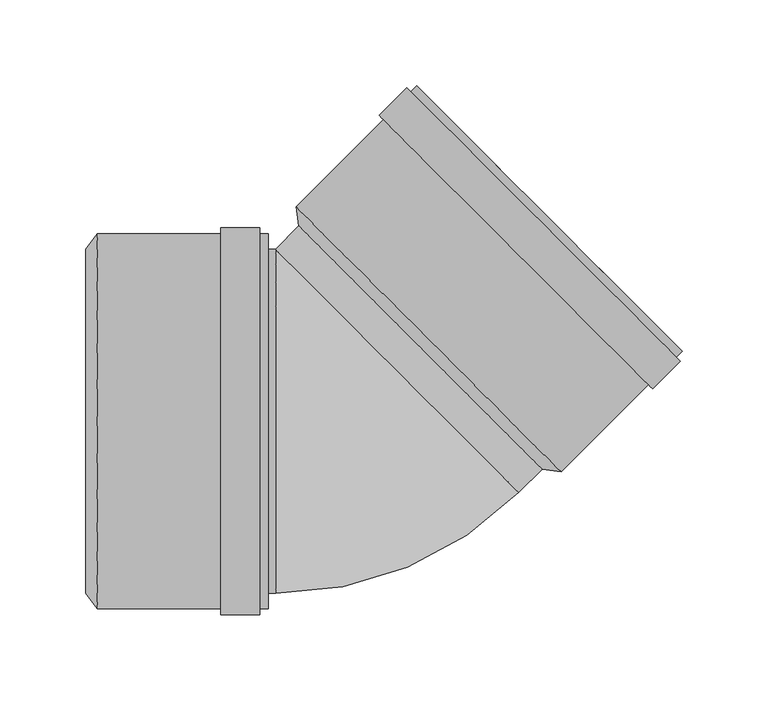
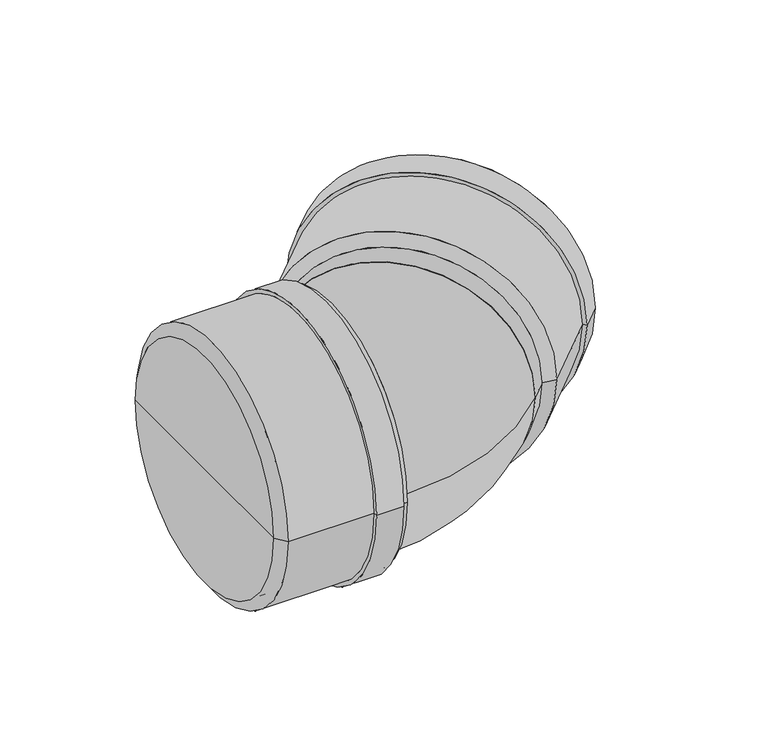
"""IFC4 building model written with IfcOpenShell, lengths in millimetres: pipe fitting geometry, pf_KGB : pf_KGB."""

import ifcopenshell
import ifcopenshell.guid

model = None  # the IFC model being written
_history = None  # IfcOwnerHistory: only IFC2X3 demands one
_inside = {}  # id of a spatial element -> (the spatial element, [elements in it])
_under = {}  # id of a project, library or spatial element -> (it, [spatial elements below it])
_declared = {}  # id of a project -> (the project, [libraries it declares])
_typed = {}  # id of a type object -> (the type object, [elements of that type])
_made_of = {}  # id of a material, layer set ... -> (it, [elements and type objects made of it])


def new_model(schema):
    """Start an empty IFC model of exactly this schema.

    Asked for "IFC4X3", IfcOpenShell would pick the latest addendum, in which some entities
    have other attributes; the version numbers below select the first issue.
    IFC2X3 requires an IfcOwnerHistory on every rooted entity: one is made here for all.
    """
    global model, _history
    if schema == "IFC4X3":
        model = ifcopenshell.file(schema_version=(4, 3, 0, 0))
    else:
        model = ifcopenshell.file(schema=schema)
    _inside.clear()
    _under.clear()
    _declared.clear()
    _typed.clear()
    _made_of.clear()
    _history = None
    if model.schema == "IFC2X3":
        org = make("IfcOrganization", Name="unknown")
        user = make(
            "IfcPersonAndOrganization",
            ThePerson=make("IfcPerson", FamilyName="unknown"),
            TheOrganization=org,
        )
        app = make(
            "IfcApplication",
            ApplicationDeveloper=org,
            Version="unknown",
            ApplicationFullName="unknown",
            ApplicationIdentifier="unknown",
        )
        _history = make(
            "IfcOwnerHistory",
            OwningUser=user,
            OwningApplication=app,
            ChangeAction="ADDED",
            CreationDate=0,
        )
    return model


def make(cls, **values):
    """One entity of the class cls with the attributes given. An attribute that is None is left unset."""
    return model.create_entity(
        cls, **{name: value for name, value in values.items() if value is not None}
    )


def rooted(cls, **values):
    """An entity with a GlobalId (a new one), such as an element, a storey or a relation."""
    return make(cls, GlobalId=ifcopenshell.guid.new(), OwnerHistory=_history, **values)


def si_unit(unit_type, name, prefix=None):
    """IfcSIUnit, for example si_unit("LENGTHUNIT", "METRE", prefix="MILLI")."""
    return make("IfcSIUnit", UnitType=unit_type, Prefix=prefix, Name=name)


def assignment(units):
    """IfcUnitAssignment: the units of a project."""
    return None if units is None else make("IfcUnitAssignment", Units=units)


def point(xyz):
    """IfcCartesianPoint."""
    return None if xyz is None else make("IfcCartesianPoint", Coordinates=xyz)


def direction(xyz):
    """IfcDirection."""
    return None if xyz is None else make("IfcDirection", DirectionRatios=xyz)


def frame(location, z_axis=None, x_axis=None):
    """IfcAxis2Placement3D, a coordinate frame: its origin and axes. An axis left out is left unset."""
    return make(
        "IfcAxis2Placement3D",
        Location=point(location),
        Axis=direction(z_axis),
        RefDirection=direction(x_axis),
    )


def frame_2d(location, x_axis=None):
    """IfcAxis2Placement2D, a coordinate frame in the plane: its origin and x axis."""
    return make(
        "IfcAxis2Placement2D", Location=point(location), RefDirection=direction(x_axis)
    )


def origin():
    """The frame at (0, 0, 0) with its axes left unset."""
    return frame((0.0, 0.0, 0.0))


def origin_2d():
    """The frame at (0, 0) in the plane with its x axis left unset."""
    return frame_2d((0.0, 0.0))


def place(relative_to, where):
    """IfcLocalPlacement: puts the frame where relative to a parent placement (None: the world)."""
    return make(
        "IfcLocalPlacement", PlacementRelTo=relative_to, RelativePlacement=where
    )


def context(
    kind, dimensions, precision=None, world=None, true_north=None, identifier=None
):
    """IfcGeometricRepresentationContext, for example the 3D "Model" context."""
    return make(
        "IfcGeometricRepresentationContext",
        ContextIdentifier=identifier,
        ContextType=kind,
        CoordinateSpaceDimension=dimensions,
        Precision=precision,
        WorldCoordinateSystem=world,
        TrueNorth=true_north,
    )


def project(units=None, contexts=None):
    """IfcProject with its units and contexts."""
    return rooted(
        "IfcProject",
        Name="project",
        RepresentationContexts=contexts,
        UnitsInContext=assignment(units),
    )


def spatial(cls, under=None, at=None, **own):
    """A site, building, storey or space (cls), placed at a placement, below another one or the project."""
    s = rooted(cls, ObjectPlacement=at, **own)
    if under is not None:
        _under.setdefault(under.id(), (under, []))[1].append(s)
    return s


def polyline(points):
    """IfcPolyline through the points."""
    return make("IfcPolyline", Points=[point(p) for p in points])


def circle_curve(where, radius):
    """IfcCircle in the frame where."""
    return make("IfcCircle", Position=where, Radius=radius)


def ellipse_curve(where, semi_axis1, semi_axis2):
    """IfcEllipse in the frame where."""
    return make(
        "IfcEllipse", Position=where, SemiAxis1=semi_axis1, SemiAxis2=semi_axis2
    )


def trimmed(basis, trim1, trim2, sense, master):
    """IfcTrimmedCurve: the piece of a basis curve between two trims."""
    return make(
        "IfcTrimmedCurve",
        BasisCurve=basis,
        Trim1=trim1,
        Trim2=trim2,
        SenseAgreement=sense,
        MasterRepresentation=master,
    )


def segment(curve, same_sense, transition):
    """IfcCompositeCurveSegment."""
    return make(
        "IfcCompositeCurveSegment",
        Transition=transition,
        SameSense=same_sense,
        ParentCurve=curve,
    )


def composite_curve(segments, self_intersect=None):
    """IfcCompositeCurve: segments joined end to end."""
    return make("IfcCompositeCurve", Segments=segments, SelfIntersect=self_intersect)


def outline(outer, holes=None, kind="AREA"):
    """IfcArbitraryClosedProfileDef: a profile drawn as a closed curve; with holes, ...WithVoids."""
    if holes is None:
        return make("IfcArbitraryClosedProfileDef", ProfileType=kind, OuterCurve=outer)
    return make(
        "IfcArbitraryProfileDefWithVoids",
        ProfileType=kind,
        OuterCurve=outer,
        InnerCurves=holes,
    )


def extrude(swept, where, along, depth):
    """IfcExtrudedAreaSolid: the profile swept, set in the frame where, extruded along a direction by depth."""
    return make(
        "IfcExtrudedAreaSolid",
        SweptArea=swept,
        Position=where,
        ExtrudedDirection=direction(along),
        Depth=depth,
    )


def shape(context_of_items, identifier, shape_type, items):
    """IfcShapeRepresentation: the items that make up one representation, for example the "Body"."""
    return make(
        "IfcShapeRepresentation",
        ContextOfItems=context_of_items,
        RepresentationIdentifier=identifier,
        RepresentationType=shape_type,
        Items=items,
    )


def source(mapping_origin, context_of_items, identifier, shape_type, items):
    """IfcRepresentationMap: a shape defined once, which mapped items show again and again."""
    return make(
        "IfcRepresentationMap",
        MappingOrigin=mapping_origin,
        MappedRepresentation=shape(context_of_items, identifier, shape_type, items),
    )


def transform(
    local_origin,
    x_axis=None,
    y_axis=None,
    z_axis=None,
    scale=None,
    scale2=None,
    scale3=None,
    uniform=True,
):
    """IfcCartesianTransformationOperator3D, or its non-uniform kind. x_axis, y_axis, z_axis: its Axis1, 2, 3."""
    if uniform:
        return make(
            "IfcCartesianTransformationOperator3D",
            Axis1=direction(x_axis),
            Axis2=direction(y_axis),
            LocalOrigin=point(local_origin),
            Scale=scale,
            Axis3=direction(z_axis),
        )
    return make(
        "IfcCartesianTransformationOperator3DnonUniform",
        Axis1=direction(x_axis),
        Axis2=direction(y_axis),
        LocalOrigin=point(local_origin),
        Scale=scale,
        Axis3=direction(z_axis),
        Scale2=scale2,
        Scale3=scale3,
    )


def mapped(mapping_source, mapping_target):
    """IfcMappedItem: shows the shape of a source again, moved by a transform."""
    return make(
        "IfcMappedItem", MappingSource=mapping_source, MappingTarget=mapping_target
    )


def made_of(thing, what):
    """Note that an element or type object is made of a material, layer set ...; save() writes the relation."""
    if what is not None:
        _made_of.setdefault(what.id(), (what, []))[1].append(thing)
    return thing


def element(
    cls,
    number,
    at=None,
    inside=None,
    cuts=None,
    type_object=None,
    material=None,
    context=None,
    identifier="Body",
    shape_type=None,
    held_by="IfcProductDefinitionShape",
    body=None,
    shapes=None,
    **own,
):
    """One element of the class cls, such as IfcWall. Its Tag is "e" and its number.

    at: its placement. inside: the storey or other place that contains it. cuts: it is an
    opening in that element (IfcRelVoidsElement). A single representation is given by context,
    identifier, shape_type and body (its items); several are given by shapes. held_by: the class
    of the entity that holds the representations. save() writes the other relations.
    """
    e = rooted(cls, Tag="e%d" % number, ObjectPlacement=at, **own)
    if body is not None:
        shapes = [shape(context, identifier, shape_type, body)]
    if shapes is not None:
        e.Representation = make(held_by, Representations=shapes)
    if inside is not None:
        _inside.setdefault(inside.id(), (inside, []))[1].append(e)
    if cuts is not None:
        rooted(
            "IfcRelVoidsElement", RelatingBuildingElement=cuts, RelatedOpeningElement=e
        )
    if type_object is not None:
        _typed.setdefault(type_object.id(), (type_object, []))[1].append(e)
    return made_of(e, material)


def aggregate(whole, parts):
    """IfcRelAggregates: a whole, such as a stair, and the parts it consists of."""
    return rooted("IfcRelAggregates", RelatingObject=whole, RelatedObjects=parts)


def save(model, path):
    """Write the relations noted so far, then the file.

    IfcRelAggregates (storeys below a building ...), IfcRelContainedInSpatialStructure (elements
    in a storey), IfcRelDefinesByType, IfcRelAssociatesMaterial and IfcRelDeclares: one each for
    every whole, place, type object, material and project.
    """
    for whole, parts in _under.values():
        aggregate(whole, parts)
    for where, things in _inside.values():
        rooted(
            "IfcRelContainedInSpatialStructure",
            RelatedElements=things,
            RelatingStructure=where,
        )
    for kind, things in _typed.values():
        rooted("IfcRelDefinesByType", RelatedObjects=things, RelatingType=kind)
    for what, things in _made_of.values():
        rooted("IfcRelAssociatesMaterial", RelatedObjects=things, RelatingMaterial=what)
    for by, libraries in _declared.values():
        rooted("IfcRelDeclares", RelatingContext=by, RelatedDefinitions=libraries)
    model.write(path)


def plane_surface(at):
    """IfcPlane: the flat surface through the origin of the frame at, square to its z axis."""
    return make("IfcPlane", Position=at)


def cylinder_surface(at, radius):
    """IfcCylindricalSurface: all points at the distance radius from the z axis of the frame at."""
    return make("IfcCylindricalSurface", Position=at, Radius=radius)


def revolved_surface(curve, axis_point, axis_direction):
    """IfcSurfaceOfRevolution: the curve turned about the line through axis_point along axis_direction."""
    return make(
        "IfcSurfaceOfRevolution",
        SweptCurve=make("IfcArbitraryOpenProfileDef", ProfileType="CURVE", Curve=curve),
        AxisPosition=make("IfcAxis1Placement", Location=point(axis_point), Axis=direction(axis_direction)),
    )


def advanced_brep(points, edges, surfaces, faces):
    """IfcAdvancedBrep: a solid bounded by faces that lie on surfaces and meet in shared edges.

    An edge is (start, end): straight between two places in points (the first is 0);
    or (start, end, curve); or (start, end, curve, False) where it runs against its curve.
    A face is (place in surfaces, loops), or (place, loops, False) where it looks against
    its surface's normal. A loop lists edges by number (the first is 1), with a minus sign
    where the edge is run from its end to its start. The first loop is the outer one.
    """
    corners = [point(p) for p in points]
    vertices = [make("IfcVertexPoint", VertexGeometry=c) for c in corners]
    made = []
    for start, end, *more in edges:
        made.append(
            make(
                "IfcEdgeCurve",
                EdgeStart=vertices[start],
                EdgeEnd=vertices[end],
                EdgeGeometry=more[0] if more else make("IfcPolyline", Points=[corners[start], corners[end]]),
                SameSense=more[1] if len(more) > 1 else True,
            )
        )
    hull = []
    for where, loops, *sense in faces:
        bounds = []
        for j, loop in enumerate(loops):
            ring = [make("IfcOrientedEdge", EdgeElement=made[abs(k) - 1], Orientation=k > 0) for k in loop]
            bounds.append(
                make(
                    "IfcFaceOuterBound" if j == 0 else "IfcFaceBound",
                    Bound=make("IfcEdgeLoop", EdgeList=ring),
                    Orientation=True,
                )
            )
        hull.append(make("IfcAdvancedFace", Bounds=bounds, FaceSurface=surfaces[where], SameSense=sense[0] if sense else True))
    return make("IfcAdvancedBrep", Outer=make("IfcClosedShell", CfsFaces=hull))


def pipe_fitting_96c7e01a(model_context):
    return source(origin(), model_context, "Body", "SolidModel", [
        advanced_brep(
        [(113.6320597, -27.7892965, 0.0), (-27.7892965, 113.6320597, 0.0), (-29.4863528, 124.8043469, 0.0), (124.8043469, -29.4863528, 0.0), (42.9213816, 42.9213816, 0.0), (195.0200503, 40.7293506, 0.0), (40.7293506, 195.0200503, 0.0), (47.1640223, 188.5853785, 0.0), (188.5853785, 47.1640223, 0.0), (37.335238, 191.6259377, 0.0), (191.6259377, 37.335238, 0.0), (34.931075, 194.0301008, 0.0), (194.0301008, 34.931075, 0.0), (18.8090404, 177.9080661, 0.0), (177.9080661, 18.8090404, 0.0), (21.2132034, 175.5039031, 0.0), (175.5039031, 21.2132034, 0.0), (118.3696752, -23.0516811, 0.0), (-23.0516811, 118.3696752, 0.0), (47.6589971, 47.6589971, 0.0)],
        [
            (0, 1, circle_curve(frame((42.9213816, 42.9213816, 0.0), z_axis=(0.7071067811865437, 0.7071067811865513, 0.0), x_axis=(-0.7071067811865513, 0.7071067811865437, 0.0)), 100.0)),
            (1, 2),
            (2, 3, circle_curve(frame((47.6589971, 47.6589971, 0.0), z_axis=(-0.7071067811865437, -0.7071067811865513, 0.0), x_axis=(-0.7071067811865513, 0.7071067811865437, 0.0)), 109.1)),
            (3, 0),
            (1, 0, circle_curve(frame((42.9213816, 42.9213816, 0.0), z_axis=(0.7071067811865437, 0.7071067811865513, 0.0), x_axis=(-0.7071067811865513, 0.7071067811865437, 0.0)), 100.0)),
            (3, 2, circle_curve(frame((47.6589971, 47.6589971, 0.0), z_axis=(-0.7071067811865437, -0.7071067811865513, 0.0), x_axis=(-0.7071067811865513, 0.7071067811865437, 0.0)), 109.1)),
            (4, 1),
            (0, 4),
            (5, 6, circle_curve(frame((117.8747004, 117.8747004, 0.0), z_axis=(0.7071067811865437, 0.7071067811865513, 0.0), x_axis=(-0.7071067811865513, 0.7071067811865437, 0.0)), 109.1)),
            (6, 7),
            (7, 8, circle_curve(frame((117.8747004, 117.8747004, 0.0), z_axis=(-0.7071067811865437, -0.7071067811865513, 0.0), x_axis=(-0.7071067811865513, 0.7071067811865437, 0.0)), 100.0)),
            (8, 5),
            (9, 10, circle_curve(frame((114.4805879, 114.4805879, 0.0), z_axis=(0.7071067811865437, 0.7071067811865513, 0.0), x_axis=(-0.7071067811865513, 0.7071067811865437, 0.0)), 109.1)),
            (10, 5),
            (5, 6, circle_curve(frame((117.8747004, 117.8747004, 0.0), z_axis=(-0.7071067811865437, -0.7071067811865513, 0.0), x_axis=(-0.7071067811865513, 0.7071067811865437, 0.0)), 109.1)),
            (6, 9),
            (11, 12, circle_curve(frame((114.4805879, 114.4805879, 0.0), z_axis=(0.7071067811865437, 0.7071067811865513, 0.0), x_axis=(-0.7071067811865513, 0.7071067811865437, 0.0)), 112.5)),
            (12, 10),
            (9, 11),
            (13, 14, circle_curve(frame((98.3585533, 98.3585533, 0.0), z_axis=(0.7071067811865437, 0.7071067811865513, 0.0), x_axis=(-0.7071067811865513, 0.7071067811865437, 0.0)), 112.5)),
            (14, 12),
            (11, 13),
            (15, 16, circle_curve(frame((98.3585533, 98.3585533, 0.0), z_axis=(0.7071067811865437, 0.7071067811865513, 0.0), x_axis=(-0.7071067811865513, 0.7071067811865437, 0.0)), 109.1)),
            (16, 14),
            (13, 15),
            (8, 7, circle_curve(frame((117.8747004, 117.8747004, 0.0), z_axis=(-0.7071067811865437, -0.7071067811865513, 0.0), x_axis=(-0.7071067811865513, 0.7071067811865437, 0.0)), 100.0)),
            (10, 9, circle_curve(frame((114.4805879, 114.4805879, 0.0), z_axis=(0.7071067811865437, 0.7071067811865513, 0.0), x_axis=(-0.7071067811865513, 0.7071067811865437, 0.0)), 109.1)),
            (12, 11, circle_curve(frame((114.4805879, 114.4805879, 0.0), z_axis=(0.7071067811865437, 0.7071067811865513, 0.0), x_axis=(-0.7071067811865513, 0.7071067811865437, 0.0)), 112.5)),
            (14, 13, circle_curve(frame((98.3585533, 98.3585533, 0.0), z_axis=(0.7071067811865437, 0.7071067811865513, 0.0), x_axis=(-0.7071067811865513, 0.7071067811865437, 0.0)), 112.5)),
            (16, 15, circle_curve(frame((98.3585533, 98.3585533, 0.0), z_axis=(0.7071067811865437, 0.7071067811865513, 0.0), x_axis=(-0.7071067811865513, 0.7071067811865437, 0.0)), 109.1)),
            (2, 15),
            (16, 3),
            (17, 18, circle_curve(frame((47.6589971, 47.6589971, 0.0), z_axis=(0.7071067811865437, 0.7071067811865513, 0.0), x_axis=(-0.7071067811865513, 0.7071067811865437, 0.0)), 100.0)),
            (18, 19),
            (19, 17),
            (18, 17, circle_curve(frame((47.6589971, 47.6589971, 0.0), z_axis=(0.7071067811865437, 0.7071067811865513, 0.0), x_axis=(-0.7071067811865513, 0.7071067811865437, 0.0)), 100.0)),
            (7, 18),
            (17, 8),
        ],
        [
            revolved_surface(polyline([(-29.4863528, 124.8043469, 0.0), (-27.7892965, 113.6320597, 0.0)]), (42.9213816, 42.9213816, 0.0), (-0.7071067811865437, -0.7071067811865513, 0.0)),
            plane_surface(frame((42.9213816, 42.9213816, 0.0), z_axis=(-0.7071067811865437, -0.7071067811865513, 0.0), x_axis=(-0.7071067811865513, 0.7071067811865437, 0.0))),
            plane_surface(frame((117.8747004, 117.8747004, 0.0), z_axis=(0.7071067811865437, 0.7071067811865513, 0.0), x_axis=(-0.7071067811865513, 0.7071067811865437, 0.0))),
            cylinder_surface(frame((42.9213816, 42.9213816, 0.0), z_axis=(-0.7071067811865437, -0.7071067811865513, 0.0), x_axis=(-0.7071067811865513, 0.7071067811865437, 0.0)), 109.1),
            plane_surface(frame((114.4805879, 114.4805879, 0.0), z_axis=(0.7071067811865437, 0.7071067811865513, 0.0), x_axis=(-0.7071067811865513, 0.7071067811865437, 0.0))),
            cylinder_surface(frame((42.9213816, 42.9213816, 0.0), z_axis=(-0.7071067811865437, -0.7071067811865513, 0.0), x_axis=(-0.7071067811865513, 0.7071067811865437, 0.0)), 112.5),
            plane_surface(frame((98.3585533, 98.3585533, 0.0), z_axis=(-0.7071067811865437, -0.7071067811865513, 0.0), x_axis=(-0.7071067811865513, 0.7071067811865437, 0.0))),
            plane_surface(frame((47.6589971, 47.6589971, 0.0), z_axis=(0.7071067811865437, 0.7071067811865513, 0.0), x_axis=(-0.7071067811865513, 0.7071067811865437, 0.0))),
            revolved_surface(polyline([(-23.05168106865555, 118.36967516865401, 0.0), (47.164022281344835, 188.58537851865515, 0.0)]), (42.9213816, 42.9213816, 0.0), (-0.7071067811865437, -0.7071067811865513, 0.0)),
        ],
        [
            (0, [[1, 2, 3, 4]]),
            (0, [[5, -4, 6, -2]]),
            (1, [[7, -1, 8]]),
            (1, [[-8, -5, -7]]),
            (2, [[9, 10, 11, 12]]),
            (3, [[13, 14, 15, 16]]),
            (4, [[17, 18, -13, 19]]),
            (5, [[20, 21, -17, 22]]),
            (6, [[23, 24, -20, 25]]),
            (2, [[-15, -12, 26, -10]]),
            (3, [[27, -16, -9, -14]]),
            (4, [[28, -19, -27, -18]]),
            (5, [[29, -22, -28, -21]]),
            (6, [[30, -25, -29, -24]]),
            (3, [[-3, 31, -30, 32]]),
            (3, [[-6, -32, -23, -31]]),
            (7, [[33, 34, 35]]),
            (7, [[36, -35, -34]]),
            (8, [[-11, 37, -33, 38]]),
            (8, [[-26, -38, -36, -37]]),
        ],
    ),
        advanced_brep(
        [(-151.7, -100.0, 0.0), (-151.7, 100.0, 0.0), (-145.0, 109.1, 0.0), (-145.0, -109.1, 0.0), (-151.7, 0.0, 0.0), (-45.7, -109.1, 0.0), (-45.7, 109.1, 0.0), (-45.7, 100.0, 0.0), (-45.7, -100.0, 0.0), (-50.5, 109.1, 0.0), (-50.5, -109.1, 0.0), (-50.5, 112.5, 0.0), (-50.5, -112.5, 0.0), (-73.3, 112.5, 0.0), (-73.3, -112.5, 0.0), (-73.3, 109.1, 0.0), (-73.3, -109.1, 0.0), (-145.0, -100.0, 0.0), (-145.0, 100.0, 0.0), (-145.0, 0.0, 0.0)],
        [
            (0, 1, circle_curve(frame((-151.7, 0.0, 0.0), z_axis=(1.0, 0.0, 0.0), x_axis=(0.0, 1.0, 0.0)), 100.0)),
            (1, 2),
            (2, 3, circle_curve(frame((-145.0, 0.0, 0.0), z_axis=(-1.0, 0.0, 0.0), x_axis=(0.0, 1.0, 0.0)), 109.1)),
            (3, 0),
            (1, 0, circle_curve(frame((-151.7, 0.0, 0.0), z_axis=(1.0, 0.0, 0.0), x_axis=(0.0, 1.0, 0.0)), 100.0)),
            (3, 2, circle_curve(frame((-145.0, 0.0, 0.0), z_axis=(-1.0, 0.0, 0.0), x_axis=(0.0, 1.0, 0.0)), 109.1)),
            (4, 1),
            (0, 4),
            (5, 6, circle_curve(frame((-45.7, 0.0, 0.0), z_axis=(1.0, 0.0, 0.0), x_axis=(0.0, 1.0, 0.0)), 109.1)),
            (6, 7),
            (7, 8, circle_curve(frame((-45.7, 0.0, 0.0), z_axis=(-1.0, 0.0, 0.0), x_axis=(0.0, 1.0, 0.0)), 100.0)),
            (8, 5),
            (9, 10, circle_curve(frame((-50.5, 0.0, 0.0), z_axis=(1.0, 0.0, 0.0), x_axis=(0.0, 1.0, 0.0)), 109.1)),
            (10, 5),
            (5, 6, circle_curve(frame((-45.7, 0.0, 0.0), z_axis=(-1.0, 0.0, 0.0), x_axis=(0.0, 1.0, 0.0)), 109.1)),
            (6, 9),
            (11, 12, circle_curve(frame((-50.5, 0.0, 0.0), z_axis=(1.0, 0.0, 0.0), x_axis=(0.0, 1.0, 0.0)), 112.5)),
            (12, 10),
            (9, 11),
            (13, 14, circle_curve(frame((-73.3, 0.0, 0.0), z_axis=(1.0, 0.0, 0.0), x_axis=(0.0, 1.0, 0.0)), 112.5)),
            (14, 12),
            (11, 13),
            (15, 16, circle_curve(frame((-73.3, 0.0, 0.0), z_axis=(1.0, 0.0, 0.0), x_axis=(0.0, 1.0, 0.0)), 109.1)),
            (16, 14),
            (13, 15),
            (8, 7, circle_curve(frame((-45.7, 0.0, 0.0), z_axis=(-1.0, 0.0, 0.0), x_axis=(0.0, 1.0, 0.0)), 100.0)),
            (10, 9, circle_curve(frame((-50.5, 0.0, 0.0), z_axis=(1.0, 0.0, 0.0), x_axis=(0.0, 1.0, 0.0)), 109.1)),
            (12, 11, circle_curve(frame((-50.5, 0.0, 0.0), z_axis=(1.0, 0.0, 0.0), x_axis=(0.0, 1.0, 0.0)), 112.5)),
            (14, 13, circle_curve(frame((-73.3, 0.0, 0.0), z_axis=(1.0, 0.0, 0.0), x_axis=(0.0, 1.0, 0.0)), 112.5)),
            (16, 15, circle_curve(frame((-73.3, 0.0, 0.0), z_axis=(1.0, 0.0, 0.0), x_axis=(0.0, 1.0, 0.0)), 109.1)),
            (2, 15),
            (16, 3),
            (17, 18, circle_curve(frame((-145.0, 0.0, 0.0), z_axis=(1.0, 0.0, 0.0), x_axis=(0.0, 1.0, 0.0)), 100.0)),
            (18, 19),
            (19, 17),
            (18, 17, circle_curve(frame((-145.0, 0.0, 0.0), z_axis=(1.0, 0.0, 0.0), x_axis=(0.0, 1.0, 0.0)), 100.0)),
            (7, 18),
            (17, 8),
        ],
        [
            revolved_surface(polyline([(-145.0, 109.1, 0.0), (-151.7, 100.0, 0.0)]), (-151.7, 0.0, 0.0), (-1.0, 0.0, 0.0)),
            plane_surface(frame((-151.7, 0.0, 0.0), z_axis=(-1.0, 0.0, 0.0), x_axis=(0.0, 1.0, 0.0))),
            plane_surface(frame((-45.7, 0.0, 0.0), z_axis=(1.0, 0.0, 0.0), x_axis=(0.0, 1.0, 0.0))),
            cylinder_surface(frame((-151.7, 0.0, 0.0), z_axis=(-1.0, 0.0, 0.0), x_axis=(0.0, 1.0, 0.0)), 109.1),
            plane_surface(frame((-50.5, 0.0, 0.0), z_axis=(1.0, 0.0, 0.0), x_axis=(0.0, 1.0, 0.0))),
            cylinder_surface(frame((-151.7, 0.0, 0.0), z_axis=(-1.0, 0.0, 0.0), x_axis=(0.0, 1.0, 0.0)), 112.5),
            plane_surface(frame((-73.3, 0.0, 0.0), z_axis=(-1.0, 0.0, 0.0), x_axis=(0.0, 1.0, 0.0))),
            plane_surface(frame((-145.0, 0.0, 0.0), z_axis=(1.0, 0.0, 0.0), x_axis=(0.0, 1.0, 0.0))),
            revolved_surface(polyline([(-145.0, 100.0, 0.0), (-45.7, 100.0, 0.0)]), (-151.7, 0.0, 0.0), (-1.0, 0.0, 0.0)),
        ],
        [
            (0, [[1, 2, 3, 4]]),
            (0, [[5, -4, 6, -2]]),
            (1, [[7, -1, 8]]),
            (1, [[-8, -5, -7]]),
            (2, [[9, 10, 11, 12]]),
            (3, [[13, 14, 15, 16]]),
            (4, [[17, 18, -13, 19]]),
            (5, [[20, 21, -17, 22]]),
            (6, [[23, 24, -20, 25]]),
            (2, [[-15, -12, 26, -10]]),
            (3, [[27, -16, -9, -14]]),
            (4, [[28, -19, -27, -18]]),
            (5, [[29, -22, -28, -21]]),
            (6, [[30, -25, -29, -24]]),
            (3, [[-3, 31, -30, 32]]),
            (3, [[-6, -32, -23, -31]]),
            (7, [[33, 34, 35]]),
            (7, [[36, -35, -34]]),
            (8, [[-11, 37, -33, 38]]),
            (8, [[-26, -38, -36, -37]]),
        ],
    ),
        extrude(outline(composite_curve([segment(trimmed(circle_curve(origin_2d(), 100.0), [point((0.0, -100.0))], [point((0.0, 100.0))], False, "CARTESIAN"), True, "CONTINUOUS"), segment(trimmed(circle_curve(origin_2d(), 100.0), [point((0.0, 100.0))], [point((0.0, -100.0))], False, "CARTESIAN"), True, "CONTINUOUS")], self_intersect=False)), frame((29.2893219, 29.2893219, 0.0), z_axis=(0.7071067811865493, 0.7071067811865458, 0.0), x_axis=(0.0, 0.0, 1.0)), (0.0, 0.0, 1.0), 19.2786438),
        extrude(outline(composite_curve([segment(trimmed(circle_curve(origin_2d(), 100.0), [point((-100.0, 0.0))], [point((100.0, 0.0))], False, "CARTESIAN"), True, "CONTINUOUS"), segment(trimmed(circle_curve(origin_2d(), 100.0), [point((100.0, 0.0))], [point((-100.0, 0.0))], False, "CARTESIAN"), True, "CONTINUOUS")], self_intersect=False)), frame((-145.0, 0.0, 0.0), z_axis=(1.0, 0.0, 0.0), x_axis=(0.0, 1.0, 0.0)), (0.0, 0.0, 1.0), 103.5786438),
        advanced_brep(
        [(-41.4213562, -100.0, 0.0), (-41.4213562, 100.0, 0.0), (100.0, -41.4213562, 0.0)],
        [
            (0, 1, circle_curve(frame((-41.4213562, 0.0, 0.0), z_axis=(-1.0, 0.0, 0.0), x_axis=(0.0, 1.0, 0.0)), 100.0)),
            (1, 0, circle_curve(frame((-41.4213562, 0.0, 0.0), z_axis=(-1.0, 0.0, 0.0), x_axis=(0.0, 1.0, 0.0)), 100.0)),
            (2, 1, circle_curve(frame((29.2893219, 29.2893219, 0.0), z_axis=(0.7071067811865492, 0.7071067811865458, 0.0), x_axis=(-0.7071067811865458, 0.7071067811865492, 0.0)), 100.0)),
            (1, 2, circle_curve(frame((29.2893219, 29.2893219, 0.0), z_axis=(0.7071067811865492, 0.7071067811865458, 0.0), x_axis=(-0.7071067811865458, 0.7071067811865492, 0.0)), 100.0)),
            (2, 0, circle_curve(frame((-41.4213562, 100.0, 0.0), z_axis=(0.0, 0.0, -1.0), x_axis=(0.0, -1.0, 0.0)), 200.0)),
        ],
        [
            plane_surface(frame((-41.4213562, 100.0, -14.8), z_axis=(-1.0, 0.0, 0.0), x_axis=(0.0, -1.0, 0.0))),
            plane_surface(frame((-41.4213562, 100.0, -14.8), z_axis=(0.7071067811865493, 0.7071067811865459, 0.0), x_axis=(0.7071067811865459, -0.7071067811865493, 0.0))),
            revolved_surface(trimmed(ellipse_curve(frame((-41.4213562, 0.0, 0.0), z_axis=(1.0, 0.0, 0.0), x_axis=(0.0, 1.0, 0.0)), 100.0, 100.0), [point((-41.4213562, -100.0, 0.0))], [point((-41.4213562, 100.0, 0.0))], True, "CARTESIAN"), (-41.4213562, 100.0, -14.8), (0.0, 0.0, -1.0)),
            revolved_surface(trimmed(ellipse_curve(frame((-41.4213562, 0.0, 0.0), z_axis=(1.0, 0.0, 0.0), x_axis=(0.0, 1.0, 0.0)), 100.0, 100.0), [point((-41.4213562, 100.0, 0.0))], [point((-41.4213562, -100.0, 0.0))], True, "CARTESIAN"), (-41.4213562, 100.0, -14.8), (0.0, 0.0, -1.0)),
        ],
        [
            (0, [[1, 2]]),
            (1, [[3, 4]]),
            (2, [[5, -2, -3]]),
            (3, [[-1, -5, -4]]),
        ],
    ),
    ])


if __name__ == "__main__":
    model = new_model("IFC4")
    model_context = context("Model", 3, world=origin())
    ifc_project = project(units=[si_unit("LENGTHUNIT", "METRE", prefix="MILLI")], contexts=[model_context])
    site = spatial("IfcSite", under=ifc_project)
    building = spatial("IfcBuilding", under=site)
    placement = place(None, origin())
    pipe_fitting_shape = pipe_fitting_96c7e01a(model_context)
    element("IfcPipeFitting", 1, ObjectType="pf_KGB : pf_KGB", at=placement, inside=building, context=model_context, shape_type="MappedRepresentation", body=[
        mapped(pipe_fitting_shape, transform((0.0, 0.0, 0.0), x_axis=(1.0, 0.0, 0.0), y_axis=(0.0, 1.0, 0.0), z_axis=(0.0, 0.0, 1.0))),
    ])
    save(model, "model.ifc")
